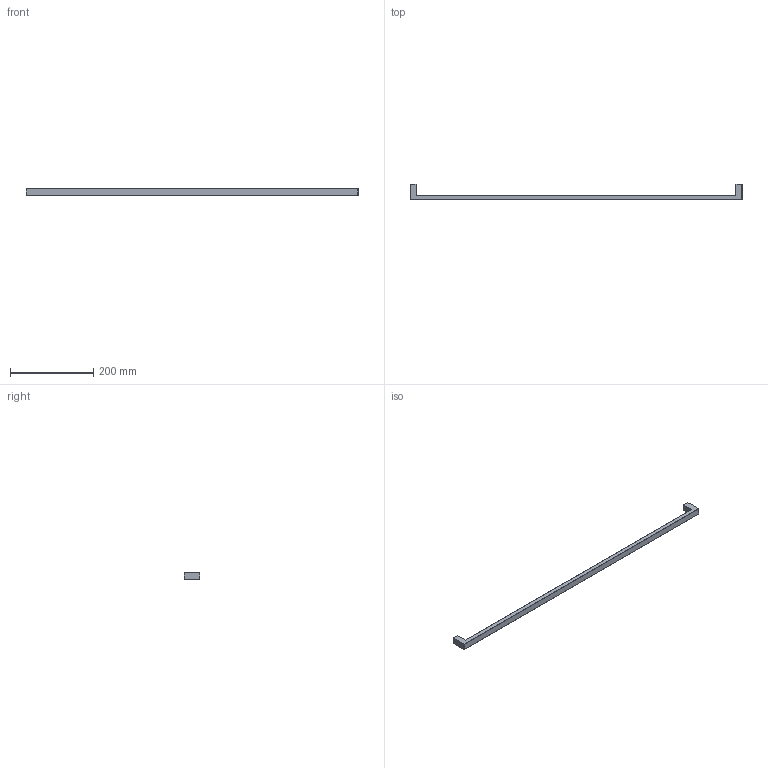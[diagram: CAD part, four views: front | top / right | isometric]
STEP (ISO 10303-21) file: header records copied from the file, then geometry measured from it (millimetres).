
FILE_DESCRIPTION( ( '' ), '1' );
FILE_NAME( 'C:/Documents and Settings/Sachin/Desktop/Sheet 10_1/stp/9113258.stp', '2013-10-22T07:01:13', ( '' ), ( '' ), ' ', ' ', ' ' );
FILE_SCHEMA( ( 'CONFIG_CONTROL_DESIGN' ) );
Length unit declared in the file: millimetre
Products named in the file (1): 1
Bounding box: 799 x 37 x 16 mm (x, y, z)
Volume: 140416.9 mm3; surface area: 44675.8 mm2
Topology: 1 solids, 1 shells, 36 faces, 88 edges, 56 vertices
Faces by surface type: cylinder 20, plane 16
Entity records: 1108 total; most frequent: DIRECTION 198, CARTESIAN_POINT 181, ORIENTED_EDGE 176, EDGE_CURVE 88, AXIS2_PLACEMENT_3D 73, VERTEX_POINT 56, LINE 52, VECTOR 52
